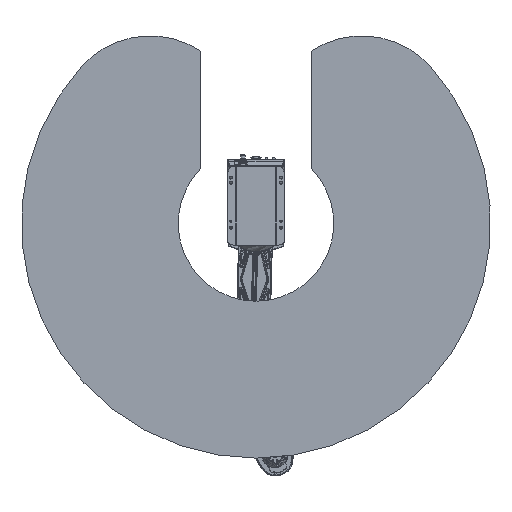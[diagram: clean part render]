
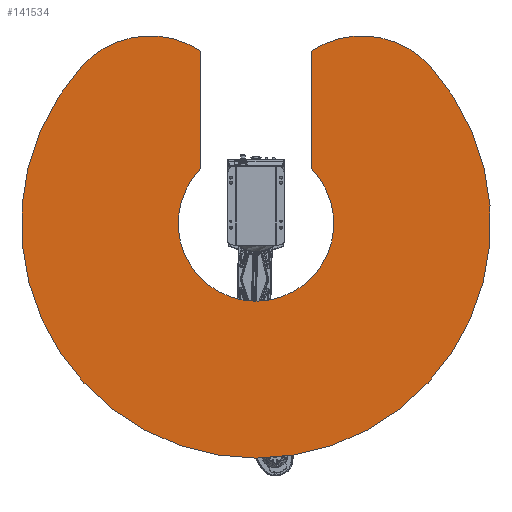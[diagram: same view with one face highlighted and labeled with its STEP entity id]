
A CAD part, front view. The second image highlights one B-rep face of the part: STEP entity #141534.
In plain terms, the highlighted planar face has unit normal (0, -1, 0).
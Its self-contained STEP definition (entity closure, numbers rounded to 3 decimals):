
#1417 = CIRCLE ( 'NONE', #299465, 700. ) ;
#6758 = EDGE_CURVE ( 'NONE', #375550, #98977, #275283, .T. ) ;
#16925 = AXIS2_PLACEMENT_3D ( 'NONE', #256471, #80936, #285855 ) ;
#20705 = AXIS2_PLACEMENT_3D ( 'NONE', #137562, #342455, #167012 ) ;
#24579 = CIRCLE ( 'NONE', #219214, 275. ) ;
#27614 = VERTEX_POINT ( 'NONE', #307255 ) ;
#44933 = CARTESIAN_POINT ( 'NONE',  ( 0., 0., -231.984 ) ) ;
#48121 = ORIENTED_EDGE ( 'NONE', *, *, #184420, .F. ) ;
#52918 = EDGE_CURVE ( 'NONE', #291169, #27614, #205669, .T. ) ;
#57148 = CARTESIAN_POINT ( 'NONE',  ( -520.201, 0., 468.391 ) ) ;
#59533 = VERTEX_POINT ( 'NONE', #57148 ) ;
#74158 = ORIENTED_EDGE ( 'NONE', *, *, #377931, .T. ) ;
#78331 = ORIENTED_EDGE ( 'NONE', *, *, #213186, .T. ) ;
#80141 = DIRECTION ( 'NONE',  ( 0., 0., 1. ) ) ;
#80936 = DIRECTION ( 'NONE',  ( 0., 1., 0. ) ) ;
#90226 = VERTEX_POINT ( 'NONE', #350828 ) ;
#90993 = ORIENTED_EDGE ( 'NONE', *, *, #178594, .F. ) ;
#93779 = CARTESIAN_POINT ( 'NONE',  ( 315.837, 0., 284.381 ) ) ;
#98977 = VERTEX_POINT ( 'NONE', #135305 ) ;
#101945 = CARTESIAN_POINT ( 'NONE',  ( 165., 0., 163.069 ) ) ;
#103893 = DIRECTION ( 'NONE',  ( 0., 1., 0. ) ) ;
#104780 = CARTESIAN_POINT ( 'NONE',  ( 0., 0., 0. ) ) ;
#113038 = AXIS2_PLACEMENT_3D ( 'NONE', #279381, #103893, #308784 ) ;
#116132 = CIRCLE ( 'NONE', #20705, 231.984 ) ;
#118617 = VECTOR ( 'NONE', #270973, 1000. ) ;
#119356 = VECTOR ( 'NONE', #370631, 1000. ) ;
#123270 = DIRECTION ( 'NONE',  ( 0., 0., 1. ) ) ;
#134235 = DIRECTION ( 'NONE',  ( 0., 0., 1. ) ) ;
#135305 = CARTESIAN_POINT ( 'NONE',  ( 165., 0., 514.323 ) ) ;
#136205 = CARTESIAN_POINT ( 'NONE',  ( 165., 0., 0. ) ) ;
#137562 = CARTESIAN_POINT ( 'NONE',  ( 0., 0., 0. ) ) ;
#141534 = ADVANCED_FACE ( 'NONE', ( #221405 ), #226104, .F. ) ;
#149802 = DIRECTION ( 'NONE',  ( 0., 1., 0. ) ) ;
#151304 = AXIS2_PLACEMENT_3D ( 'NONE', #325283, #149802, #354741 ) ;
#157345 = CIRCLE ( 'NONE', #16925, 275. ) ;
#167012 = DIRECTION ( 'NONE',  ( 0., 0., 1. ) ) ;
#174723 = CIRCLE ( 'NONE', #113038, 231.984 ) ;
#178594 = EDGE_CURVE ( 'NONE', #90226, #59533, #1417, .T. ) ;
#182538 = CARTESIAN_POINT ( 'NONE',  ( -165., 0., 0. ) ) ;
#184420 = EDGE_CURVE ( 'NONE', #229377, #90226, #209963, .T. ) ;
#200308 = ORIENTED_EDGE ( 'NONE', *, *, #6758, .F. ) ;
#205669 = LINE ( 'NONE', #182538, #118617 ) ;
#209963 = CIRCLE ( 'NONE', #151304, 700. ) ;
#213186 = EDGE_CURVE ( 'NONE', #375550, #229398, #116132, .T. ) ;
#219214 = AXIS2_PLACEMENT_3D ( 'NONE', #93779, #298723, #123270 ) ;
#221405 = FACE_OUTER_BOUND ( 'NONE', #359032, .T. ) ;
#226104 = PLANE ( 'NONE',  #248921 ) ;
#229377 = VERTEX_POINT ( 'NONE', #331834 ) ;
#229398 = VERTEX_POINT ( 'NONE', #44933 ) ;
#242277 = ORIENTED_EDGE ( 'NONE', *, *, #258761, .T. ) ;
#246639 = ORIENTED_EDGE ( 'NONE', *, *, #352281, .F. ) ;
#248921 = AXIS2_PLACEMENT_3D ( 'NONE', #313310, #255662, #80141 ) ;
#255662 = DIRECTION ( 'NONE',  ( 0., 1., 0. ) ) ;
#256471 = CARTESIAN_POINT ( 'NONE',  ( -315.837, 0., 284.381 ) ) ;
#258761 = EDGE_CURVE ( 'NONE', #229398, #291169, #174723, .T. ) ;
#270973 = DIRECTION ( 'NONE',  ( 0., 0., 1. ) ) ;
#275283 = LINE ( 'NONE', #136205, #119356 ) ;
#276301 = CARTESIAN_POINT ( 'NONE',  ( -165., 0., 163.069 ) ) ;
#279381 = CARTESIAN_POINT ( 'NONE',  ( 0., 0., 0. ) ) ;
#285855 = DIRECTION ( 'NONE',  ( 0., 0., 1. ) ) ;
#291169 = VERTEX_POINT ( 'NONE', #276301 ) ;
#298723 = DIRECTION ( 'NONE',  ( 0., -1., 0. ) ) ;
#299465 = AXIS2_PLACEMENT_3D ( 'NONE', #104780, #309668, #134235 ) ;
#307255 = CARTESIAN_POINT ( 'NONE',  ( -165., 0., 514.323 ) ) ;
#308784 = DIRECTION ( 'NONE',  ( 0., 0., 1. ) ) ;
#309668 = DIRECTION ( 'NONE',  ( 0., 1., 0. ) ) ;
#313310 = CARTESIAN_POINT ( 'NONE',  ( 0., 0., 0. ) ) ;
#317793 = ORIENTED_EDGE ( 'NONE', *, *, #52918, .T. ) ;
#325283 = CARTESIAN_POINT ( 'NONE',  ( 0., 0., 0. ) ) ;
#331834 = CARTESIAN_POINT ( 'NONE',  ( 520.201, 0., 468.391 ) ) ;
#342455 = DIRECTION ( 'NONE',  ( 0., 1., 0. ) ) ;
#350828 = CARTESIAN_POINT ( 'NONE',  ( 0., 0., -700. ) ) ;
#352281 = EDGE_CURVE ( 'NONE', #59533, #27614, #157345, .T. ) ;
#354741 = DIRECTION ( 'NONE',  ( 0., 0., 1. ) ) ;
#359032 = EDGE_LOOP ( 'NONE', ( #317793, #246639, #90993, #48121, #74158, #200308, #78331, #242277 ) ) ;
#370631 = DIRECTION ( 'NONE',  ( 0., 0., 1. ) ) ;
#375550 = VERTEX_POINT ( 'NONE', #101945 ) ;
#377931 = EDGE_CURVE ( 'NONE', #229377, #98977, #24579, .T. ) ;
